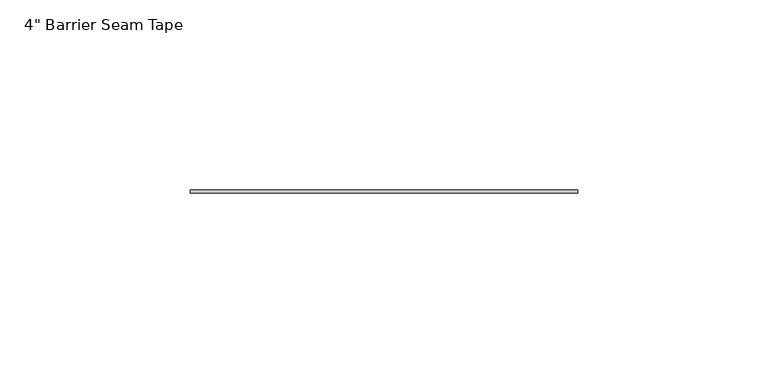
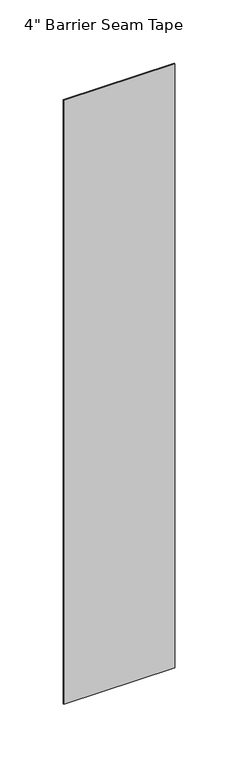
"""IFC4 building model written with IfcOpenShell, lengths in millimetres: proxy geometry."""

from ifc_helpers import new_model, si_unit, origin, origin_with_axes, place, context, project, spatial, polyline, outline, extrude, source, transform, mapped, element, save


def proxy_5fc139d0(model_context):
    return source(origin(), model_context, "Body", "SweptSolid", [
        extrude(outline(polyline([(-101.6, 0.0), (0.0, 0.0), (0.0, -0.79375), (-101.6, -0.79375), (-101.6, 0.0)])), origin_with_axes(), (0.0, 0.0, 1.0), 584.2),
    ])


if __name__ == "__main__":
    model = new_model("IFC4")
    model_context = context("Model", 3, world=origin())
    ifc_project = project(units=[si_unit("LENGTHUNIT", "METRE", prefix="MILLI")], contexts=[model_context])
    site = spatial("IfcSite", under=ifc_project)
    building = spatial("IfcBuilding", under=site)
    placement = place(None, origin())
    proxy_shape = proxy_5fc139d0(model_context)
    element("IfcBuildingElementProxy", 1, Name="Durabond Generic Model Barrier Seam Tape Straight : 4\" Barrier Seam Tape", ObjectType="Durabond Generic Model Barrier Seam Tape Straight : 4\" Barrier Seam Tape", at=placement, inside=building, context=model_context, shape_type="MappedRepresentation", body=[
        mapped(proxy_shape, transform((0.0, 0.0, 0.0), x_axis=(1.0, 0.0, 0.0), y_axis=(0.0, 1.0, 0.0), z_axis=(0.0, 0.0, 1.0))),
    ])
    save(model, "model.ifc")
